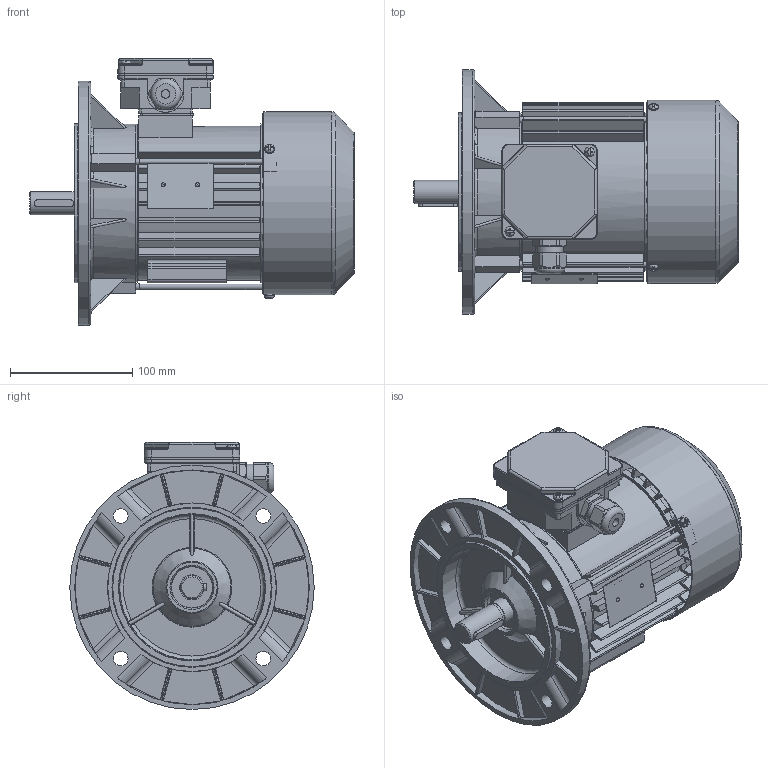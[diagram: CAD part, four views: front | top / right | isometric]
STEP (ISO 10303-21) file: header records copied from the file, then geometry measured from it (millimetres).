
FILE_DESCRIPTION(/* description */ ('Unknown'),/* implementation_level */ '2;1');
FILE_NAME(/* name */ '2SIEK80-4A',/* time_stamp */ '2021-04-12T14:52:53+02:00',/* author */ ('Unknown'),/* organization */ ('Unknown'),/* preprocessor_version */ 'ST-DEVELOPER v16.7',/* originating_system */ 'Solid Edge',/* authorisation */ 'Unknown');
FILE_SCHEMA (('AUTOMOTIVE_DESIGN {1 0 10303 214 3 1 1}'));
Products named in the file (1): 2SIEK80-4A
Bounding box: 265.79 x 200 x 218.5 mm (x, y, z)
Volume: 903846.4 mm3; surface area: 505684 mm2
Topology: 3 solids, 3 shells, 2257 faces, 6370 edges, 4130 vertices
Faces by surface type: plane 1136, cylinder 765, bspline 132, torus 118, cone 88, sphere 18
Full cylindrical faces by diameter (mm): 2 x2, 2.4 x2, 3 x1, 3.7 x8, 4 x3, 4.5 x1, 4.6 x3, 4.8 x2, 5 x5, 5.5 x3, 7 x1, 8 x9, 12 x4, 18.598 x1, 18.998 x1, 19.298 x1, 19.498 x1, 20.298 x2, 20.398 x2, 20.4 x2, 22.3 x1, 25 x1, 25.497 x1, 25.647 x1, 25.997 x3, 26.047 x1, 28.799 x4, 34 x2, 38.198 x4, 42 x2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
Entity records: 89788 total; most frequent: CARTESIAN_POINT 18842, ORIENTED_EDGE 12044, DIRECTION 11293, EDGE_CURVE 6022, AXIS2_PLACEMENT_3D 4071, VERTEX_POINT 4027, LINE 3151, VECTOR 3151
